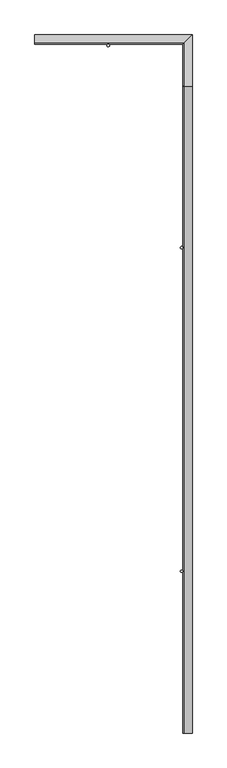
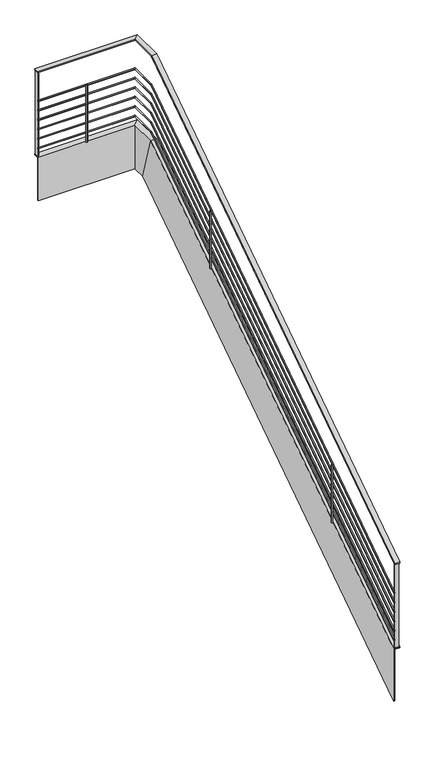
"""IFC4 building model written with IfcOpenShell, lengths in millimetres: railing geometry, Pletina y tubos pancha cubre forjado."""

from ifc_helpers import new_model, si_unit, point, frame, frame_2d, origin, place, context, project, spatial, polyline, circle_curve, ellipse_curve, trimmed, segment, composite_curve, outline, extrude, faceted_brep, source, transform, mapped, element, save
from ifc_brep_helpers import plane_surface, cylinder_surface, advanced_brep


def railing_c1485744(model_context):
    return source(origin(), model_context, "Body", "SolidModel", [
        faceted_brep([(972.0012558, -7482.6669037, 287.5), (1022.0012558, -7482.6669037, 287.5), (1022.0012558, -7482.6669037, 299.5350387), (962.0012558, -7482.6669037, 299.5350387), (962.0012558, -7482.6669037, -254.0767398), (972.0012558, -7482.6669037, -254.0767398), (972.0012558, -3282.6669037, 3100.0), (1022.0012558, -3282.6669037, 3100.0), (1022.0012558, -3285.7058948, 3110.0), (962.0012558, -3285.7058948, 3110.0), (962.0012558, -3145.9123056, 2650.0), (972.0012558, -3145.9123056, 2650.0), (972.0012558, -3002.2669037, 3100.0), (1022.0012558, -2952.2669037, 3100.0), (1022.0012558, -2952.2669037, 3110.0), (962.0012558, -3012.2669037, 3110.0), (962.0012558, -3012.2669037, 2650.0), (972.0012558, -3002.2669037, 2650.0), (-0.8601801, -3002.2669037, 3100.0), (-0.8601801, -3002.2669037, 2650.0), (-0.8601801, -3012.2669037, 2650.0), (-0.8601801, -3012.2669037, 3110.0), (-0.8601801, -2952.2669037, 3110.0), (-0.8601801, -2952.2669037, 3100.0)], [[[0, 1, 2, 3, 4, 5]], [[1, 0, 6, 7]], [[2, 1, 7, 8]], [[3, 2, 8, 9]], [[4, 3, 9, 10]], [[5, 4, 10, 11]], [[0, 5, 11, 6]], [[7, 6, 12, 13]], [[8, 7, 13, 14]], [[9, 8, 14, 15]], [[10, 9, 15, 16]], [[11, 10, 16, 17]], [[6, 11, 17, 12]], [[18, 19, 20, 21, 22, 23]], [[13, 12, 18, 23]], [[14, 13, 23, 22]], [[15, 14, 22, 21]], [[16, 15, 21, 20]], [[17, 16, 20, 19]], [[12, 17, 19, 18]]]),
        advanced_brep(
        [(974.0012558, -7482.6669037, 387.5), (962.0012558, -7482.6669037, 387.5), (974.0012558, -3282.6669037, 3200.0), (962.0012558, -3282.6669037, 3200.0), (974.0012558, -3000.2669037, 3200.0), (962.0012558, -3012.2669037, 3200.0), (-0.8601801, -3000.2669037, 3200.0), (-0.8601801, -3012.2669037, 3200.0)],
        [
            (0, 1, ellipse_curve(frame((968.0012558, -7482.6669037, 387.5), z_axis=(0.0, -1.0, 0.0), x_axis=(0.0, 0.0, -1.0)), 7.2210232, 6.0)),
            (1, 0, ellipse_curve(frame((968.0012558, -7482.6669037, 387.5), z_axis=(0.0, -1.0, 0.0), x_axis=(0.0, 0.0, -1.0)), 7.2210232, 6.0)),
            (0, 2),
            (2, 3, ellipse_curve(frame((968.0012558, -3282.6669037, 3200.0), z_axis=(0.0, -0.9567933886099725, -0.29076865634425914), x_axis=(0.0, 0.2907686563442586, -0.9567933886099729)), 6.2709463, 6.0)),
            (3, 1),
            (3, 2, ellipse_curve(frame((968.0012558, -3282.6669037, 3200.0), z_axis=(0.0, -0.9567933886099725, -0.29076865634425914), x_axis=(0.0, 0.2907686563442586, -0.9567933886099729)), 6.2709463, 6.0)),
            (2, 4),
            (4, 5, ellipse_curve(frame((968.0012558, -3006.2669037, 3200.0), z_axis=(0.7071067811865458, -0.7071067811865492, 0.0), x_axis=(-0.7071067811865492, -0.7071067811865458, 0.0)), 8.4852814, 6.0)),
            (5, 3),
            (5, 4, ellipse_curve(frame((968.0012558, -3006.2669037, 3200.0), z_axis=(0.7071067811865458, -0.7071067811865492, 0.0), x_axis=(-0.7071067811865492, -0.7071067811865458, 0.0)), 8.4852814, 6.0)),
            (6, 7, circle_curve(frame((-0.8601801, -3006.2669037, 3200.0), z_axis=(-1.0, 0.0, 0.0), x_axis=(0.0, -1.0, 0.0)), 6.0)),
            (7, 6, circle_curve(frame((-0.8601801, -3006.2669037, 3200.0), z_axis=(-1.0, 0.0, 0.0), x_axis=(0.0, -1.0, 0.0)), 6.0)),
            (4, 6),
            (7, 5),
        ],
        [
            plane_surface(frame((968.0012558, -7482.6669037, 387.5), z_axis=(0.0, -1.0, 0.0), x_axis=(0.0, 0.0, 1.0))),
            cylinder_surface(frame((968.0012558, -7482.6669037, 387.5), z_axis=(0.0, -0.8309071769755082, -0.5564110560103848), x_axis=(-1.0, 0.0, 0.0)), 6.0),
            cylinder_surface(frame((968.0012558, -3282.6669037, 3200.0), z_axis=(0.0, -1.0, 0.0), x_axis=(-1.0, 0.0, 0.0)), 6.0),
            plane_surface(frame((-0.8601801, -3006.2669037, 3200.0), z_axis=(-1.0, 0.0, 0.0), x_axis=(0.0, -1.0, 0.0))),
            cylinder_surface(frame((968.0012558, -3006.2669037, 3200.0), z_axis=(1.0, 0.0, 0.0), x_axis=(0.0, -1.0, 0.0)), 6.0),
        ],
        [
            (0, [[1, 2]]),
            (1, [[-1, 3, 4, 5]]),
            (1, [[-2, -5, 6, -3]]),
            (2, [[-4, 7, 8, 9]]),
            (2, [[-6, -9, 10, -7]]),
            (3, [[11, 12]]),
            (4, [[-8, 13, -12, 14]]),
            (4, [[-10, -14, -11, -13]]),
        ],
    ),
        advanced_brep(
        [(974.0012558, -7482.6669037, 487.5), (962.0012558, -7482.6669037, 487.5), (974.0012558, -3282.6669037, 3300.0), (962.0012558, -3282.6669037, 3300.0), (974.0012558, -3000.2669037, 3300.0), (962.0012558, -3012.2669037, 3300.0), (-0.8601801, -3000.2669037, 3300.0), (-0.8601801, -3012.2669037, 3300.0)],
        [
            (0, 1, ellipse_curve(frame((968.0012558, -7482.6669037, 487.5), z_axis=(0.0, -1.0, 0.0), x_axis=(0.0, 0.0, -1.0)), 7.2210232, 6.0)),
            (1, 0, ellipse_curve(frame((968.0012558, -7482.6669037, 487.5), z_axis=(0.0, -1.0, 0.0), x_axis=(0.0, 0.0, -1.0)), 7.2210232, 6.0)),
            (0, 2),
            (2, 3, ellipse_curve(frame((968.0012558, -3282.6669037, 3300.0), z_axis=(0.0, -0.9567933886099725, -0.29076865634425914), x_axis=(0.0, 0.2907686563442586, -0.9567933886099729)), 6.2709463, 6.0)),
            (3, 1),
            (3, 2, ellipse_curve(frame((968.0012558, -3282.6669037, 3300.0), z_axis=(0.0, -0.9567933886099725, -0.29076865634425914), x_axis=(0.0, 0.2907686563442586, -0.9567933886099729)), 6.2709463, 6.0)),
            (2, 4),
            (4, 5, ellipse_curve(frame((968.0012558, -3006.2669037, 3300.0), z_axis=(0.7071067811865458, -0.7071067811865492, 0.0), x_axis=(-0.7071067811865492, -0.7071067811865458, 0.0)), 8.4852814, 6.0)),
            (5, 3),
            (5, 4, ellipse_curve(frame((968.0012558, -3006.2669037, 3300.0), z_axis=(0.7071067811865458, -0.7071067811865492, 0.0), x_axis=(-0.7071067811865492, -0.7071067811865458, 0.0)), 8.4852814, 6.0)),
            (6, 7, circle_curve(frame((-0.8601801, -3006.2669037, 3300.0), z_axis=(-1.0, 0.0, 0.0), x_axis=(0.0, -1.0, 0.0)), 6.0)),
            (7, 6, circle_curve(frame((-0.8601801, -3006.2669037, 3300.0), z_axis=(-1.0, 0.0, 0.0), x_axis=(0.0, -1.0, 0.0)), 6.0)),
            (4, 6),
            (7, 5),
        ],
        [
            plane_surface(frame((968.0012558, -7482.6669037, 487.5), z_axis=(0.0, -1.0, 0.0), x_axis=(0.0, 0.0, 1.0))),
            cylinder_surface(frame((968.0012558, -7482.6669037, 487.5), z_axis=(0.0, -0.8309071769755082, -0.5564110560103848), x_axis=(-1.0, 0.0, 0.0)), 6.0),
            cylinder_surface(frame((968.0012558, -3282.6669037, 3300.0), z_axis=(0.0, -1.0, 0.0), x_axis=(-1.0, 0.0, 0.0)), 6.0),
            plane_surface(frame((-0.8601801, -3006.2669037, 3300.0), z_axis=(-1.0, 0.0, 0.0), x_axis=(0.0, -1.0, 0.0))),
            cylinder_surface(frame((968.0012558, -3006.2669037, 3300.0), z_axis=(1.0, 0.0, 0.0), x_axis=(0.0, -1.0, 0.0)), 6.0),
        ],
        [
            (0, [[1, 2]]),
            (1, [[-1, 3, 4, 5]]),
            (1, [[-2, -5, 6, -3]]),
            (2, [[-4, 7, 8, 9]]),
            (2, [[-6, -9, 10, -7]]),
            (3, [[11, 12]]),
            (4, [[-8, 13, -12, 14]]),
            (4, [[-10, -14, -11, -13]]),
        ],
    ),
        advanced_brep(
        [(974.0012558, -7482.6669037, 587.5), (962.0012558, -7482.6669037, 587.5), (974.0012558, -3282.6669037, 3400.0), (962.0012558, -3282.6669037, 3400.0), (974.0012558, -3000.2669037, 3400.0), (962.0012558, -3012.2669037, 3400.0), (-0.8601801, -3000.2669037, 3400.0), (-0.8601801, -3012.2669037, 3400.0)],
        [
            (0, 1, ellipse_curve(frame((968.0012558, -7482.6669037, 587.5), z_axis=(0.0, -1.0, 0.0), x_axis=(0.0, 0.0, -1.0)), 7.2210232, 6.0)),
            (1, 0, ellipse_curve(frame((968.0012558, -7482.6669037, 587.5), z_axis=(0.0, -1.0, 0.0), x_axis=(0.0, 0.0, -1.0)), 7.2210232, 6.0)),
            (0, 2),
            (2, 3, ellipse_curve(frame((968.0012558, -3282.6669037, 3400.0), z_axis=(0.0, -0.9567933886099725, -0.29076865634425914), x_axis=(0.0, 0.2907686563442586, -0.9567933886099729)), 6.2709463, 6.0)),
            (3, 1),
            (3, 2, ellipse_curve(frame((968.0012558, -3282.6669037, 3400.0), z_axis=(0.0, -0.9567933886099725, -0.29076865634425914), x_axis=(0.0, 0.2907686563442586, -0.9567933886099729)), 6.2709463, 6.0)),
            (2, 4),
            (4, 5, ellipse_curve(frame((968.0012558, -3006.2669037, 3400.0), z_axis=(0.7071067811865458, -0.7071067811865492, 0.0), x_axis=(-0.7071067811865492, -0.7071067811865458, 0.0)), 8.4852814, 6.0)),
            (5, 3),
            (5, 4, ellipse_curve(frame((968.0012558, -3006.2669037, 3400.0), z_axis=(0.7071067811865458, -0.7071067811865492, 0.0), x_axis=(-0.7071067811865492, -0.7071067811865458, 0.0)), 8.4852814, 6.0)),
            (6, 7, circle_curve(frame((-0.8601801, -3006.2669037, 3400.0), z_axis=(-1.0, 0.0, 0.0), x_axis=(0.0, -1.0, 0.0)), 6.0)),
            (7, 6, circle_curve(frame((-0.8601801, -3006.2669037, 3400.0), z_axis=(-1.0, 0.0, 0.0), x_axis=(0.0, -1.0, 0.0)), 6.0)),
            (4, 6),
            (7, 5),
        ],
        [
            plane_surface(frame((968.0012558, -7482.6669037, 587.5), z_axis=(0.0, -1.0, 0.0), x_axis=(0.0, 0.0, 1.0))),
            cylinder_surface(frame((968.0012558, -7482.6669037, 587.5), z_axis=(0.0, -0.8309071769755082, -0.5564110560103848), x_axis=(-1.0, 0.0, 0.0)), 6.0),
            cylinder_surface(frame((968.0012558, -3282.6669037, 3400.0), z_axis=(0.0, -1.0, 0.0), x_axis=(-1.0, 0.0, 0.0)), 6.0),
            plane_surface(frame((-0.8601801, -3006.2669037, 3400.0), z_axis=(-1.0, 0.0, 0.0), x_axis=(0.0, -1.0, 0.0))),
            cylinder_surface(frame((968.0012558, -3006.2669037, 3400.0), z_axis=(1.0, 0.0, 0.0), x_axis=(0.0, -1.0, 0.0)), 6.0),
        ],
        [
            (0, [[1, 2]]),
            (1, [[-1, 3, 4, 5]]),
            (1, [[-2, -5, 6, -3]]),
            (2, [[-4, 7, 8, 9]]),
            (2, [[-6, -9, 10, -7]]),
            (3, [[11, 12]]),
            (4, [[-8, 13, -12, 14]]),
            (4, [[-10, -14, -11, -13]]),
        ],
    ),
        advanced_brep(
        [(974.0012558, -7482.6669037, 687.5), (962.0012558, -7482.6669037, 687.5), (974.0012558, -3282.6669037, 3500.0), (962.0012558, -3282.6669037, 3500.0), (974.0012558, -3000.2669037, 3500.0), (962.0012558, -3012.2669037, 3500.0), (-0.8601801, -3000.2669037, 3500.0), (-0.8601801, -3012.2669037, 3500.0)],
        [
            (0, 1, ellipse_curve(frame((968.0012558, -7482.6669037, 687.5), z_axis=(0.0, -1.0, 0.0), x_axis=(0.0, 0.0, -1.0)), 7.2210232, 6.0)),
            (1, 0, ellipse_curve(frame((968.0012558, -7482.6669037, 687.5), z_axis=(0.0, -1.0, 0.0), x_axis=(0.0, 0.0, -1.0)), 7.2210232, 6.0)),
            (0, 2),
            (2, 3, ellipse_curve(frame((968.0012558, -3282.6669037, 3500.0), z_axis=(0.0, -0.9567933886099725, -0.29076865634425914), x_axis=(0.0, 0.2907686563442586, -0.9567933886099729)), 6.2709463, 6.0)),
            (3, 1),
            (3, 2, ellipse_curve(frame((968.0012558, -3282.6669037, 3500.0), z_axis=(0.0, -0.9567933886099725, -0.29076865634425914), x_axis=(0.0, 0.2907686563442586, -0.9567933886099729)), 6.2709463, 6.0)),
            (2, 4),
            (4, 5, ellipse_curve(frame((968.0012558, -3006.2669037, 3500.0), z_axis=(0.7071067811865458, -0.7071067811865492, 0.0), x_axis=(-0.7071067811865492, -0.7071067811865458, 0.0)), 8.4852814, 6.0)),
            (5, 3),
            (5, 4, ellipse_curve(frame((968.0012558, -3006.2669037, 3500.0), z_axis=(0.7071067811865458, -0.7071067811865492, 0.0), x_axis=(-0.7071067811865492, -0.7071067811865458, 0.0)), 8.4852814, 6.0)),
            (6, 7, circle_curve(frame((-0.8601801, -3006.2669037, 3500.0), z_axis=(-1.0, 0.0, 0.0), x_axis=(0.0, -1.0, 0.0)), 6.0)),
            (7, 6, circle_curve(frame((-0.8601801, -3006.2669037, 3500.0), z_axis=(-1.0, 0.0, 0.0), x_axis=(0.0, -1.0, 0.0)), 6.0)),
            (4, 6),
            (7, 5),
        ],
        [
            plane_surface(frame((968.0012558, -7482.6669037, 687.5), z_axis=(0.0, -1.0, 0.0), x_axis=(0.0, 0.0, 1.0))),
            cylinder_surface(frame((968.0012558, -7482.6669037, 687.5), z_axis=(0.0, -0.8309071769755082, -0.5564110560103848), x_axis=(-1.0, 0.0, 0.0)), 6.0),
            cylinder_surface(frame((968.0012558, -3282.6669037, 3500.0), z_axis=(0.0, -1.0, 0.0), x_axis=(-1.0, 0.0, 0.0)), 6.0),
            plane_surface(frame((-0.8601801, -3006.2669037, 3500.0), z_axis=(-1.0, 0.0, 0.0), x_axis=(0.0, -1.0, 0.0))),
            cylinder_surface(frame((968.0012558, -3006.2669037, 3500.0), z_axis=(1.0, 0.0, 0.0), x_axis=(0.0, -1.0, 0.0)), 6.0),
        ],
        [
            (0, [[1, 2]]),
            (1, [[-1, 3, 4, 5]]),
            (1, [[-2, -5, 6, -3]]),
            (2, [[-4, 7, 8, 9]]),
            (2, [[-6, -9, 10, -7]]),
            (3, [[11, 12]]),
            (4, [[-8, 13, -12, 14]]),
            (4, [[-10, -14, -11, -13]]),
        ],
    ),
        advanced_brep(
        [(974.0012558, -7482.6669037, 787.5), (962.0012558, -7482.6669037, 787.5), (974.0012558, -3282.6669037, 3600.0), (962.0012558, -3282.6669037, 3600.0), (974.0012558, -3000.2669037, 3600.0), (962.0012558, -3012.2669037, 3600.0), (-0.8601801, -3000.2669037, 3600.0), (-0.8601801, -3012.2669037, 3600.0)],
        [
            (0, 1, ellipse_curve(frame((968.0012558, -7482.6669037, 787.5), z_axis=(0.0, -1.0, 0.0), x_axis=(0.0, 0.0, -0.9999999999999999)), 7.2210232, 6.0)),
            (1, 0, ellipse_curve(frame((968.0012558, -7482.6669037, 787.5), z_axis=(0.0, -1.0, 0.0), x_axis=(0.0, 0.0, -0.9999999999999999)), 7.2210232, 6.0)),
            (0, 2),
            (2, 3, ellipse_curve(frame((968.0012558, -3282.6669037, 3600.0), z_axis=(0.0, -0.9567933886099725, -0.2907686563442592), x_axis=(0.0, 0.2907686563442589, -0.9567933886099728)), 6.2709463, 6.0)),
            (3, 1),
            (3, 2, ellipse_curve(frame((968.0012558, -3282.6669037, 3600.0), z_axis=(0.0, -0.9567933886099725, -0.2907686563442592), x_axis=(0.0, 0.2907686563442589, -0.9567933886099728)), 6.2709463, 6.0)),
            (2, 4),
            (4, 5, ellipse_curve(frame((968.0012558, -3006.2669037, 3600.0), z_axis=(0.7071067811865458, -0.7071067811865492, 0.0), x_axis=(-0.7071067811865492, -0.7071067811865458, 0.0)), 8.4852814, 6.0)),
            (5, 3),
            (5, 4, ellipse_curve(frame((968.0012558, -3006.2669037, 3600.0), z_axis=(0.7071067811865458, -0.7071067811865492, 0.0), x_axis=(-0.7071067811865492, -0.7071067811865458, 0.0)), 8.4852814, 6.0)),
            (6, 7, circle_curve(frame((-0.8601801, -3006.2669037, 3600.0), z_axis=(-1.0, 0.0, 0.0), x_axis=(0.0, -1.0, 0.0)), 6.0)),
            (7, 6, circle_curve(frame((-0.8601801, -3006.2669037, 3600.0), z_axis=(-1.0, 0.0, 0.0), x_axis=(0.0, -1.0, 0.0)), 6.0)),
            (4, 6),
            (7, 5),
        ],
        [
            plane_surface(frame((968.0012558, -7482.6669037, 787.5), z_axis=(0.0, -1.0, 0.0), x_axis=(0.0, 0.0, 1.0))),
            cylinder_surface(frame((968.0012558, -7482.6669037, 787.5), z_axis=(0.0, -0.8309071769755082, -0.5564110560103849), x_axis=(-1.0, 0.0, 0.0)), 6.0),
            cylinder_surface(frame((968.0012558, -3282.6669037, 3600.0), z_axis=(0.0, -1.0, 0.0), x_axis=(-1.0, 0.0, 0.0)), 6.0),
            plane_surface(frame((-0.8601801, -3006.2669037, 3600.0), z_axis=(-1.0, 0.0, 0.0), x_axis=(0.0, -1.0, 0.0))),
            cylinder_surface(frame((968.0012558, -3006.2669037, 3600.0), z_axis=(1.0, 0.0, 0.0), x_axis=(0.0, -1.0, 0.0)), 6.0),
        ],
        [
            (0, [[1, 2]]),
            (1, [[-1, 3, 4, 5]]),
            (1, [[-2, -5, 6, -3]]),
            (2, [[-4, 7, 8, 9]]),
            (2, [[-6, -9, 10, -7]]),
            (3, [[11, 12]]),
            (4, [[-8, 13, -12, 14]]),
            (4, [[-10, -14, -11, -13]]),
        ],
    ),
        advanced_brep(
        [(974.0012558, -7482.6669037, 887.5), (962.0012558, -7482.6669037, 887.5), (974.0012558, -3282.6669037, 3700.0), (962.0012558, -3282.6669037, 3700.0), (974.0012558, -3000.2669037, 3700.0), (962.0012558, -3012.2669037, 3700.0), (-0.8601801, -3000.2669037, 3700.0), (-0.8601801, -3012.2669037, 3700.0)],
        [
            (0, 1, ellipse_curve(frame((968.0012558, -7482.6669037, 887.5), z_axis=(0.0, -1.0, 0.0), x_axis=(0.0, 0.0, -0.9999999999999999)), 7.2210232, 6.0)),
            (1, 0, ellipse_curve(frame((968.0012558, -7482.6669037, 887.5), z_axis=(0.0, -1.0, 0.0), x_axis=(0.0, 0.0, -0.9999999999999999)), 7.2210232, 6.0)),
            (0, 2),
            (2, 3, ellipse_curve(frame((968.0012558, -3282.6669037, 3700.0), z_axis=(0.0, -0.9567933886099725, -0.2907686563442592), x_axis=(0.0, 0.2907686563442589, -0.9567933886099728)), 6.2709463, 6.0)),
            (3, 1),
            (3, 2, ellipse_curve(frame((968.0012558, -3282.6669037, 3700.0), z_axis=(0.0, -0.9567933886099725, -0.2907686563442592), x_axis=(0.0, 0.2907686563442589, -0.9567933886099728)), 6.2709463, 6.0)),
            (2, 4),
            (4, 5, ellipse_curve(frame((968.0012558, -3006.2669037, 3700.0), z_axis=(0.7071067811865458, -0.7071067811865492, 0.0), x_axis=(-0.7071067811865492, -0.7071067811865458, 0.0)), 8.4852814, 6.0)),
            (5, 3),
            (5, 4, ellipse_curve(frame((968.0012558, -3006.2669037, 3700.0), z_axis=(0.7071067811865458, -0.7071067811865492, 0.0), x_axis=(-0.7071067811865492, -0.7071067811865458, 0.0)), 8.4852814, 6.0)),
            (6, 7, circle_curve(frame((-0.8601801, -3006.2669037, 3700.0), z_axis=(-1.0, 0.0, 0.0), x_axis=(0.0, -1.0, 0.0)), 6.0)),
            (7, 6, circle_curve(frame((-0.8601801, -3006.2669037, 3700.0), z_axis=(-1.0, 0.0, 0.0), x_axis=(0.0, -1.0, 0.0)), 6.0)),
            (4, 6),
            (7, 5),
        ],
        [
            plane_surface(frame((968.0012558, -7482.6669037, 887.5), z_axis=(0.0, -1.0, 0.0), x_axis=(0.0, 0.0, 1.0))),
            cylinder_surface(frame((968.0012558, -7482.6669037, 887.5), z_axis=(0.0, -0.8309071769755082, -0.5564110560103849), x_axis=(-1.0, 0.0, 0.0)), 6.0),
            cylinder_surface(frame((968.0012558, -3282.6669037, 3700.0), z_axis=(0.0, -1.0, 0.0), x_axis=(-1.0, 0.0, 0.0)), 6.0),
            plane_surface(frame((-0.8601801, -3006.2669037, 3700.0), z_axis=(-1.0, 0.0, 0.0), x_axis=(0.0, -1.0, 0.0))),
            cylinder_surface(frame((968.0012558, -3006.2669037, 3700.0), z_axis=(1.0, 0.0, 0.0), x_axis=(0.0, -1.0, 0.0)), 6.0),
        ],
        [
            (0, [[1, 2]]),
            (1, [[-1, 3, 4, 5]]),
            (1, [[-2, -5, 6, -3]]),
            (2, [[-4, 7, 8, 9]]),
            (2, [[-6, -9, 10, -7]]),
            (3, [[11, 12]]),
            (4, [[-8, 13, -12, 14]]),
            (4, [[-10, -14, -11, -13]]),
        ],
    ),
        faceted_brep([(972.0012558, -7482.6669037, 1193.5175193), (972.0012558, -7482.6669037, 1181.4824807), (1022.0012558, -7482.6669037, 1181.4824807), (1022.0012558, -7482.6669037, 1193.5175193), (972.0012558, -3284.1863992, 4005.0), (972.0012558, -3281.1474082, 3995.0), (1022.0012558, -3281.1474082, 3995.0), (1022.0012558, -3284.1863992, 4005.0), (972.0012558, -3002.2669037, 4005.0), (972.0012558, -3002.2669037, 3995.0), (1022.0012558, -2952.2669037, 3995.0), (1022.0012558, -2952.2669037, 4005.0), (-0.8601801, -3002.2669037, 4005.0), (-0.8601801, -2952.2669037, 4005.0), (-0.8601801, -2952.2669037, 3995.0), (-0.8601801, -3002.2669037, 3995.0)], [[[0, 1, 2, 3]], [[1, 0, 4, 5]], [[2, 1, 5, 6]], [[3, 2, 6, 7]], [[0, 3, 7, 4]], [[5, 4, 8, 9]], [[6, 5, 9, 10]], [[7, 6, 10, 11]], [[4, 7, 11, 8]], [[12, 13, 14, 15]], [[9, 8, 12, 15]], [[10, 9, 15, 14]], [[11, 10, 14, 13]], [[8, 11, 13, 12]]]),
        extrude(outline(composite_curve([segment(trimmed(circle_curve(frame_2d((476.5705379, -3020.2669037)), 8.0), [point((476.5705379, -3012.2669037))], [point((476.5705379, -3028.2669037))], False, "CARTESIAN"), True, "CONTINUOUS"), segment(trimmed(circle_curve(frame_2d((476.5705379, -3020.2669037)), 8.0), [point((476.5705379, -3028.2669037))], [point((476.5705379, -3012.2669037))], False, "CARTESIAN"), True, "CONTINUOUS")], self_intersect=False)), frame((0.0, 0.0, 3110.0), z_axis=(0.0, 0.0, 1.0), x_axis=(1.0, 0.0, 0.0)), (0.0, 0.0, 1.0), 600.0),
        advanced_brep(
        [(962.0012558, -4332.6669037, 3006.875), (962.0012558, -4332.6669037, 2408.9100387), (946.0012558, -4332.6669037, 2408.9100387), (946.0012558, -4332.6669037, 3006.875)],
        [
            (0, 1),
            (1, 2, ellipse_curve(frame((954.0012558, -4332.6669037, 2408.9100387), z_axis=(0.0, -0.5564110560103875, 0.8309071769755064), x_axis=(0.0, 0.8309071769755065, 0.5564110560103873)), 9.6280309, 8.0)),
            (2, 3),
            (3, 0, circle_curve(frame((954.0012558, -4332.6669037, 3006.875), z_axis=(0.0, 0.0, -1.0), x_axis=(1.0, 0.0, 0.0)), 8.0)),
            (2, 1, ellipse_curve(frame((954.0012558, -4332.6669037, 2408.9100387), z_axis=(0.0, -0.5564110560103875, 0.8309071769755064), x_axis=(0.0, 0.8309071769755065, 0.5564110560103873)), 9.6280309, 8.0)),
            (0, 3, circle_curve(frame((954.0012558, -4332.6669037, 3006.875), z_axis=(0.0, 0.0, -1.0), x_axis=(1.0, 0.0, 0.0)), 8.0)),
        ],
        [
            cylinder_surface(frame((954.0012558, -4332.6669037, 2228.9100387), z_axis=(0.0, 0.0, 1.0), x_axis=(1.0, 0.0, 0.0)), 8.0),
            plane_surface(frame((1044.0012558, -4242.6669037, 3006.875), z_axis=(0.0, 0.0, 1.0), x_axis=(-1.0, 0.0, 0.0))),
            plane_surface(frame((1044.0012558, -4422.6669037, 2348.6421815), z_axis=(0.0, 0.5564110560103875, -0.8309071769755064), x_axis=(-1.0, 0.0, 0.0))),
        ],
        [
            (0, [[1, 2, 3, 4]]),
            (0, [[-3, 5, -1, 6]]),
            (1, [[-6, -4]]),
            (2, [[-5, -2]]),
        ],
    ),
        advanced_brep(
        [(962.0012558, -6432.6669037, 1600.625), (962.0012558, -6432.6669037, 1002.6600387), (946.0012558, -6432.6669037, 1002.6600387), (946.0012558, -6432.6669037, 1600.625)],
        [
            (0, 1),
            (1, 2, ellipse_curve(frame((954.0012558, -6432.6669037, 1002.6600387), z_axis=(0.0, -0.5564110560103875, 0.8309071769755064), x_axis=(0.0, 0.8309071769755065, 0.5564110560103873)), 9.6280309, 8.0)),
            (2, 3),
            (3, 0, circle_curve(frame((954.0012558, -6432.6669037, 1600.625), z_axis=(0.0, 0.0, -1.0), x_axis=(1.0, 0.0, 0.0)), 8.0)),
            (2, 1, ellipse_curve(frame((954.0012558, -6432.6669037, 1002.6600387), z_axis=(0.0, -0.5564110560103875, 0.8309071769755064), x_axis=(0.0, 0.8309071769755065, 0.5564110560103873)), 9.6280309, 8.0)),
            (0, 3, circle_curve(frame((954.0012558, -6432.6669037, 1600.625), z_axis=(0.0, 0.0, -1.0), x_axis=(1.0, 0.0, 0.0)), 8.0)),
        ],
        [
            cylinder_surface(frame((954.0012558, -6432.6669037, 822.6600387), z_axis=(0.0, 0.0, 1.0), x_axis=(1.0, 0.0, 0.0)), 8.0),
            plane_surface(frame((1044.0012558, -6342.6669037, 1600.625), z_axis=(0.0, 0.0, 1.0), x_axis=(-1.0, 0.0, 0.0))),
            plane_surface(frame((1044.0012558, -6522.6669037, 942.3921815), z_axis=(0.0, 0.5564110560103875, -0.8309071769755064), x_axis=(-1.0, 0.0, 0.0))),
        ],
        [
            (0, [[1, 2, 3, 4]]),
            (0, [[-3, 5, -1, 6]]),
            (1, [[-6, -4]]),
            (2, [[-5, -2]]),
        ],
    ),
        extrude(outline(polyline([(9.1398199, -2960.2669037), (9.1398199, -3000.2669037), (-0.8601801, -3000.2669037), (-0.8601801, -2960.2669037), (9.1398199, -2960.2669037)])), frame((0.0, 0.0, 3110.0), z_axis=(0.0, 0.0, 1.0), x_axis=(1.0, 0.0, 0.0)), (0.0, 0.0, 1.0), 885.0),
        extrude(outline(polyline([(1014.0012558, -7482.6669037), (974.0012558, -7482.6669037), (974.0012558, -7472.6669037), (1014.0012558, -7472.6669037), (1014.0012558, -7482.6669037)])), frame((0.0, 0.0, 302.8832529), z_axis=(0.0, 0.0, 1.0), x_axis=(1.0, 0.0, 0.0)), (0.0, 0.0, 1.0), 881.947442),
    ])


if __name__ == "__main__":
    model = new_model("IFC4")
    model_context = context("Model", 3, world=origin())
    ifc_project = project(units=[si_unit("LENGTHUNIT", "METRE", prefix="MILLI")], contexts=[model_context])
    site = spatial("IfcSite", under=ifc_project)
    building = spatial("IfcBuilding", under=site)
    placement = place(None, origin())
    railing_shape = railing_c1485744(model_context)
    element("IfcRailing", 1, ObjectType="Pletina y tubos pancha cubre forjado", at=placement, inside=building, context=model_context, shape_type="MappedRepresentation", body=[
        mapped(railing_shape, transform((0.0, 0.0, 0.0), x_axis=(1.0, 0.0, 0.0), y_axis=(0.0, 1.0, 0.0), z_axis=(0.0, 0.0, 1.0))),
    ])
    save(model, "model.ifc")
